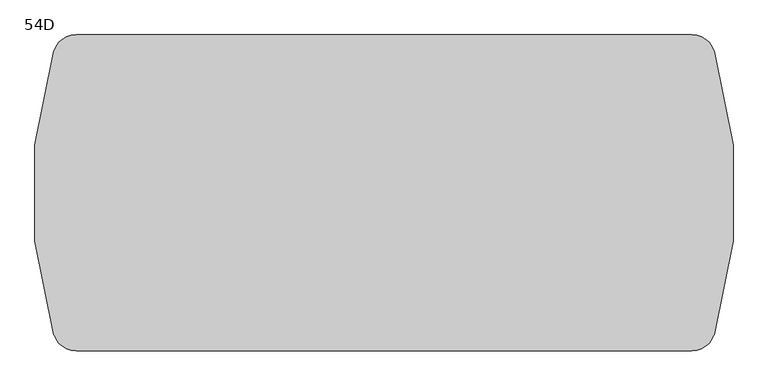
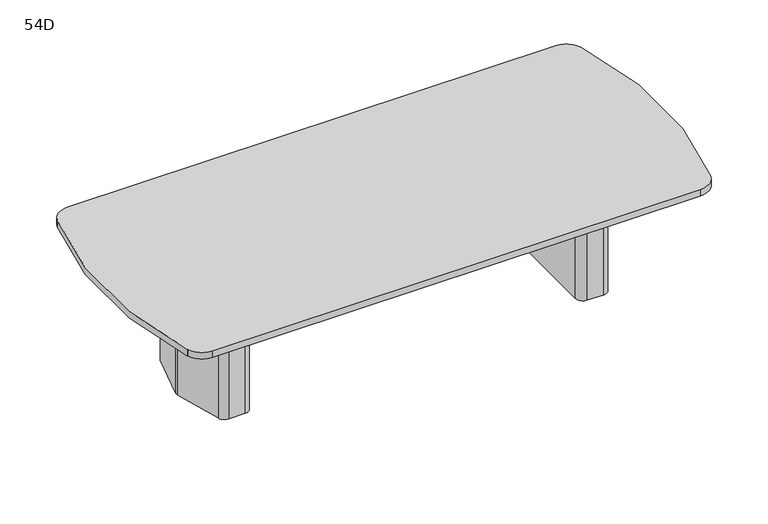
"""IFC4 building model written with IfcOpenShell, lengths in millimetres: furniture geometry, Coalesse_AM_Table_Conference_ETable2_SoftRadiused_10ft_TwoBase : 54D."""

from ifc_helpers import new_model, si_unit, frame, origin, place, context, project, spatial, polyline, circle_curve, outline, extrude, source, transform, mapped, element, save
from ifc_brep_helpers import plane_surface, cylinder_surface, revolved_surface, advanced_brep


def furniture_54d_7802b859(model_context):
    return source(origin(), model_context, "Body", "SolidModel", [
        advanced_brep(
        [(1065.424548, 274.2093613, 698.5), (1025.5579246, 304.8, 698.5), (936.625, 304.8, 698.5), (895.35, 263.525, 698.5), (895.35, -263.525, 698.5), (936.625, -304.8, 698.5), (1025.5579246, -304.8, 698.5), (1065.424548, -274.2093613, 698.5), (1136.0503901, -10.6333708, 698.5), (1136.0503901, 10.6333708, 698.5), (933.45, -206.375, 698.5), (933.45, 206.375, 698.5), (958.85, 231.775, 698.5), (1017.8608422, 231.775, 698.5), (1042.395338, 212.9490792, 698.5), (1081.0875, 68.54974, 698.5), (1081.0875, -68.54974, 698.5), (1042.395338, -212.9490792, 698.5), (1017.8608422, -231.775, 698.5), (958.85, -231.775, 698.5), (1065.424548, 274.2093613, 3.175), (1136.0503901, 10.6333708, 3.175), (1136.0503901, -10.6333708, 3.175), (1065.424548, -274.2093613, 3.175), (1025.5579246, -304.8, 3.175), (936.625, -304.8, 3.175), (895.35, -263.525, 3.175), (895.35, 263.525, 3.175), (936.625, 304.8, 3.175), (1025.5579246, 304.8, 3.175), (1054.6625859, 216.2361187, 3.175), (1017.8608422, 244.475, 3.175), (958.85, 244.475, 3.175), (920.75, 206.375, 3.175), (920.75, -206.375, 3.175), (958.85, -244.475, 3.175), (1017.8608422, -244.475, 3.175), (1054.6625859, -216.2361187, 3.175), (1093.7875, -70.2217466, 3.175), (1093.7875, 70.2217466, 3.175), (958.85, -231.775, 3.175), (933.45, -206.375, 3.175), (1017.8608422, -231.775, 3.175), (1042.395338, -212.9490792, 3.175), (1081.0875, -68.54974, 3.175), (1081.0875, 68.54974, 3.175), (1042.395338, 212.9490792, 3.175), (1017.8608422, 231.775, 3.175), (958.85, 231.775, 3.175), (933.45, 206.375, 3.175), (1054.6625859, 216.2361187, 0.0), (1093.7875, 70.2217466, 0.0), (1093.7875, -70.2217466, 0.0), (1054.6625859, -216.2361187, 0.0), (1017.8608422, -244.475, 0.0), (958.85, -244.475, 0.0), (920.75, -206.375, 0.0), (920.75, 206.375, 0.0), (958.85, 244.475, 0.0), (1017.8608422, 244.475, 0.0)],
        [
            (0, 1, circle_curve(frame((1025.5579246, 263.5270004, 698.5), z_axis=(0.0, 0.0, 1.0), x_axis=(-1.0, 0.0, 0.0)), 41.2729996)),
            (1, 2),
            (2, 3, circle_curve(frame((936.625, 263.525, 698.5), z_axis=(0.0, 0.0, 1.0), x_axis=(-1.0, 0.0, 0.0)), 41.275)),
            (3, 4),
            (4, 5, circle_curve(frame((936.625, -263.525, 698.5), z_axis=(0.0, 0.0, 1.0), x_axis=(-1.0, 0.0, 0.0)), 41.275)),
            (5, 6),
            (6, 7, circle_curve(frame((1025.5579246, -263.5270004, 698.5), z_axis=(0.0, 0.0, 1.0), x_axis=(-1.0, 0.0, 0.0)), 41.2729996)),
            (7, 8),
            (8, 9, circle_curve(frame((1096.3665979, 0.0, 698.5), z_axis=(0.0, 0.0, 1.0), x_axis=(-1.0, 0.0, 0.0)), 41.0837187)),
            (9, 0),
            (10, 11),
            (11, 12, circle_curve(frame((958.85, 206.375, 698.5), z_axis=(0.0, 0.0, -1.0), x_axis=(-1.0, 0.0, 0.0)), 25.4)),
            (12, 13),
            (13, 14, circle_curve(frame((1017.8608422, 206.375, 698.5), z_axis=(0.0, 0.0, -1.0), x_axis=(-1.0, 0.0, 0.0)), 25.4)),
            (14, 15),
            (15, 16),
            (16, 17),
            (17, 18, circle_curve(frame((1017.8608422, -206.375, 698.5), z_axis=(0.0, 0.0, -1.0), x_axis=(-1.0, 0.0, 0.0)), 25.4)),
            (18, 19),
            (19, 10, circle_curve(frame((958.85, -206.375, 698.5), z_axis=(0.0, 0.0, -1.0), x_axis=(-1.0, 0.0, 0.0)), 25.4)),
            (20, 21),
            (21, 22, circle_curve(frame((1096.3665979, 0.0, 3.175), z_axis=(0.0, 0.0, -1.0), x_axis=(-1.0, 0.0, 0.0)), 41.0837187)),
            (22, 23),
            (23, 24, circle_curve(frame((1025.5579246, -263.5270004, 3.175), z_axis=(0.0, 0.0, -1.0), x_axis=(-1.0, 0.0, 0.0)), 41.2729996)),
            (24, 25),
            (25, 26, circle_curve(frame((936.625, -263.525, 3.175), z_axis=(0.0, 0.0, -1.0), x_axis=(-1.0, 0.0, 0.0)), 41.275)),
            (26, 27),
            (27, 28, circle_curve(frame((936.625, 263.525, 3.175), z_axis=(0.0, 0.0, -1.0), x_axis=(-1.0, 0.0, 0.0)), 41.275)),
            (28, 29),
            (29, 20, circle_curve(frame((1025.5579246, 263.5270004, 3.175), z_axis=(0.0, 0.0, -1.0), x_axis=(-1.0, 0.0, 0.0)), 41.2729996)),
            (30, 31, circle_curve(frame((1017.8608422, 206.375, 3.175), z_axis=(0.0, 0.0, 1.0), x_axis=(-1.0, 0.0, 0.0)), 38.1)),
            (31, 32),
            (32, 33, circle_curve(frame((958.85, 206.375, 3.175), z_axis=(0.0, 0.0, 1.0), x_axis=(-1.0, 0.0, 0.0)), 38.1)),
            (33, 34),
            (34, 35, circle_curve(frame((958.85, -206.375, 3.175), z_axis=(0.0, 0.0, 1.0), x_axis=(-1.0, 0.0, 0.0)), 38.1)),
            (35, 36),
            (36, 37, circle_curve(frame((1017.8608422, -206.375, 3.175), z_axis=(0.0, 0.0, 1.0), x_axis=(-1.0, 0.0, 0.0)), 38.1)),
            (37, 38),
            (38, 39),
            (39, 30),
            (9, 21),
            (20, 0),
            (8, 22),
            (7, 23),
            (6, 24),
            (5, 25),
            (4, 26),
            (3, 27),
            (2, 28),
            (1, 29),
            (19, 40),
            (40, 41, circle_curve(frame((958.85, -206.375, 3.175), z_axis=(0.0, 0.0, -1.0), x_axis=(-1.0, 0.0, 0.0)), 25.4)),
            (41, 10),
            (18, 42),
            (42, 40),
            (17, 43),
            (43, 42, circle_curve(frame((1017.8608422, -206.375, 3.175), z_axis=(0.0, 0.0, -1.0), x_axis=(-1.0, 0.0, 0.0)), 25.4)),
            (16, 44),
            (44, 43),
            (15, 45),
            (45, 44),
            (14, 46),
            (46, 45),
            (13, 47),
            (47, 46, circle_curve(frame((1017.8608422, 206.375, 3.175), z_axis=(0.0, 0.0, -1.0), x_axis=(-1.0, 0.0, 0.0)), 25.4)),
            (12, 48),
            (48, 47),
            (11, 49),
            (49, 48, circle_curve(frame((958.85, 206.375, 3.175), z_axis=(0.0, 0.0, -1.0), x_axis=(-1.0, 0.0, 0.0)), 25.4)),
            (41, 49),
            (50, 51),
            (51, 52),
            (52, 53),
            (53, 54, circle_curve(frame((1017.8608422, -206.375, 0.0), z_axis=(0.0, 0.0, -1.0), x_axis=(-1.0, 0.0, 0.0)), 38.1)),
            (54, 55),
            (55, 56, circle_curve(frame((958.85, -206.375, 0.0), z_axis=(0.0, 0.0, -1.0), x_axis=(-1.0, 0.0, 0.0)), 38.1)),
            (56, 57),
            (57, 58, circle_curve(frame((958.85, 206.375, 0.0), z_axis=(0.0, 0.0, -1.0), x_axis=(-1.0, 0.0, 0.0)), 38.1)),
            (58, 59),
            (59, 50, circle_curve(frame((1017.8608422, 206.375, 0.0), z_axis=(0.0, 0.0, -1.0), x_axis=(-1.0, 0.0, 0.0)), 38.1)),
            (50, 30),
            (39, 51),
            (38, 52),
            (37, 53),
            (36, 54),
            (35, 55),
            (34, 56),
            (33, 57),
            (32, 58),
            (31, 59),
        ],
        [
            plane_surface(frame((1136.0374275, 10.6817473, 698.5), z_axis=(0.0, 0.0, 1.0000000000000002), x_axis=(0.25882201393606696, -0.9659250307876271, 0.0))),
            plane_surface(frame((1136.0374275, 10.6817473, 3.175), z_axis=(0.0, 0.0, -1.0000000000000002), x_axis=(-0.25882201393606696, 0.9659250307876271, 0.0))),
            plane_surface(frame((1065.424548, 274.2093613, 698.5), z_axis=(0.9659250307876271, 0.25882201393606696, 0.0), x_axis=(0.0, 0.0, -1.0))),
            cylinder_surface(frame((1096.3665979, 0.0, 3.175), z_axis=(0.0, 0.0, 1.0), x_axis=(-1.0, 0.0, 0.0)), 41.0837187),
            plane_surface(frame((1136.0503901, -10.6333708, 698.5), z_axis=(0.9659250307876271, -0.2588220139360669, 0.0), x_axis=(0.0, 0.0, -1.0))),
            cylinder_surface(frame((1025.5579246, -263.5270004, 3.175), z_axis=(0.0, 0.0, 1.0), x_axis=(-1.0, 0.0, 0.0)), 41.2729996),
            plane_surface(frame((1025.5579246, -304.8, 698.5), z_axis=(0.0, -1.0, 0.0), x_axis=(0.0, 0.0, -1.0))),
            cylinder_surface(frame((936.625, -263.525, 3.175), z_axis=(0.0, 0.0, 1.0), x_axis=(-1.0, 0.0, 0.0)), 41.275),
            plane_surface(frame((895.35, -263.525, 698.5), z_axis=(-1.0, 0.0, 0.0), x_axis=(0.0, 0.0, -1.0))),
            cylinder_surface(frame((936.625, 263.525, 3.175), z_axis=(0.0, 0.0, 1.0), x_axis=(-1.0, 0.0, 0.0)), 41.275),
            plane_surface(frame((936.625, 304.8, 698.5), z_axis=(0.0, 1.0, 0.0), x_axis=(0.0, 0.0, -1.0))),
            cylinder_surface(frame((1025.5579246, 263.5270004, 3.175), z_axis=(0.0, 0.0, 1.0), x_axis=(-1.0, 0.0, 0.0)), 41.2729996),
            revolved_surface(polyline([(933.45, -206.375, 3.175), (933.45, -206.375, 698.5)]), (958.85, -206.375, 0.0), (0.0, 0.0, -1.0)),
            plane_surface(frame((958.85, -231.775, 698.5), z_axis=(0.0, 1.0, 0.0), x_axis=(0.0, 0.0, -1.0))),
            revolved_surface(polyline([(992.4608422, -206.375, 3.175), (992.4608422, -206.375, 698.5)]), (1017.8608422, -206.375, 0.0), (0.0, 0.0, -1.0)),
            plane_surface(frame((1042.395338, -212.9490792, 698.5), z_axis=(-0.9659250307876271, 0.2588220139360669, 0.0), x_axis=(0.0, 0.0, -1.0))),
            plane_surface(frame((1081.0875, -68.54974, 698.5), z_axis=(-1.0, 0.0, 0.0), x_axis=(0.0, 0.0, -1.0))),
            plane_surface(frame((1081.0875, 68.54974, 698.5), z_axis=(-0.9659250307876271, -0.25882201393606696, 0.0), x_axis=(0.0, 0.0, -1.0))),
            revolved_surface(polyline([(992.4608422, 206.375, 3.175), (992.4608422, 206.375, 698.5)]), (1017.8608422, 206.375, 0.0), (0.0, 0.0, -1.0)),
            plane_surface(frame((1017.8608422, 231.775, 698.5), z_axis=(0.0, -1.0, 0.0), x_axis=(0.0, 0.0, -1.0))),
            revolved_surface(polyline([(933.45, 206.375, 3.175), (933.45, 206.375, 698.5)]), (958.85, 206.375, 0.0), (0.0, 0.0, -1.0)),
            plane_surface(frame((933.45, 206.375, 698.5), z_axis=(1.0, 0.0, 0.0), x_axis=(0.0, 0.0, -1.0))),
            plane_surface(frame((1093.3547479, 71.8367796, 3.175), z_axis=(0.0, 0.0, 1.0), x_axis=(0.25882201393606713, -0.965925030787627, 0.0))),
            plane_surface(frame((1093.3547479, 71.8367796, 0.0), z_axis=(0.0, 0.0, -1.0), x_axis=(-0.25882201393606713, 0.965925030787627, 0.0))),
            plane_surface(frame((1054.6625859, 216.2361187, 3.175), z_axis=(0.965925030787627, 0.25882201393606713, 0.0), x_axis=(0.0, 0.0, -1.0))),
            plane_surface(frame((1093.7875, 70.2217466, 3.175), z_axis=(1.0, 0.0, 0.0), x_axis=(0.0, 0.0, -1.0))),
            plane_surface(frame((1093.7875, -70.2217466, 3.175), z_axis=(0.9659250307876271, -0.2588220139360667, 0.0), x_axis=(0.0, 0.0, -1.0))),
            cylinder_surface(frame((1017.8608422, -206.375, 0.0), z_axis=(0.0, 0.0, 1.0), x_axis=(-1.0, 0.0, 0.0)), 38.1),
            plane_surface(frame((1017.8608422, -244.475, 3.175), z_axis=(0.0, -1.0, 0.0), x_axis=(0.0, 0.0, -1.0))),
            cylinder_surface(frame((958.85, -206.375, 0.0), z_axis=(0.0, 0.0, 1.0), x_axis=(-1.0, 0.0, 0.0)), 38.1),
            plane_surface(frame((920.75, -206.375, 3.175), z_axis=(-1.0, 0.0, 0.0), x_axis=(0.0, 0.0, -1.0))),
            cylinder_surface(frame((958.85, 206.375, 0.0), z_axis=(0.0, 0.0, 1.0), x_axis=(-1.0, 0.0, 0.0)), 38.1),
            plane_surface(frame((958.85, 244.475, 3.175), z_axis=(0.0, 1.0, 0.0), x_axis=(0.0, 0.0, -1.0))),
            cylinder_surface(frame((1017.8608422, 206.375, 0.0), z_axis=(0.0, 0.0, 1.0), x_axis=(-1.0, 0.0, 0.0)), 38.1),
        ],
        [
            (0, [[1, 2, 3, 4, 5, 6, 7, 8, 9, 10], [11, 12, 13, 14, 15, 16, 17, 18, 19, 20]]),
            (1, [[21, 22, 23, 24, 25, 26, 27, 28, 29, 30], [31, 32, 33, 34, 35, 36, 37, 38, 39, 40]]),
            (2, [[41, -21, 42, -10]]),
            (3, [[43, -22, -41, -9]]),
            (4, [[44, -23, -43, -8]]),
            (5, [[45, -24, -44, -7]]),
            (6, [[46, -25, -45, -6]]),
            (7, [[47, -26, -46, -5]]),
            (8, [[48, -27, -47, -4]]),
            (9, [[49, -28, -48, -3]]),
            (10, [[50, -29, -49, -2]]),
            (11, [[-42, -30, -50, -1]]),
            (12, [[51, 52, 53, -20]]),
            (13, [[54, 55, -51, -19]]),
            (14, [[56, 57, -54, -18]]),
            (15, [[58, 59, -56, -17]]),
            (16, [[60, 61, -58, -16]]),
            (17, [[62, 63, -60, -15]]),
            (18, [[64, 65, -62, -14]]),
            (19, [[66, 67, -64, -13]]),
            (20, [[68, 69, -66, -12]]),
            (21, [[-53, 70, -68, -11]]),
            (22, [[-55, -57, -59, -61, -63, -65, -67, -69, -70, -52]]),
            (23, [[71, 72, 73, 74, 75, 76, 77, 78, 79, 80]]),
            (24, [[81, -40, 82, -71]]),
            (25, [[-82, -39, 83, -72]]),
            (26, [[-83, -38, 84, -73]]),
            (27, [[-84, -37, 85, -74]]),
            (28, [[-85, -36, 86, -75]]),
            (29, [[-86, -35, 87, -76]]),
            (30, [[-87, -34, 88, -77]]),
            (31, [[-88, -33, 89, -78]]),
            (32, [[-89, -32, 90, -79]]),
            (33, [[-90, -31, -81, -80]]),
        ],
    ),
        advanced_brep(
        [(-1065.424548, 274.2093613, 698.5), (-1136.0503901, 10.6333708, 698.5), (-1136.0503901, -10.6333708, 698.5), (-1065.424548, -274.2093613, 698.5), (-1025.5579246, -304.8, 698.5), (-936.625, -304.8, 698.5), (-895.35, -263.525, 698.5), (-895.35, 263.525, 698.5), (-936.625, 304.8, 698.5), (-1025.5579246, 304.8, 698.5), (-933.45, -206.375, 698.5), (-958.85, -231.775, 698.5), (-1017.8608422, -231.775, 698.5), (-1042.395338, -212.9490792, 698.5), (-1081.0875, -68.54974, 698.5), (-1081.0875, 68.54974, 698.5), (-1042.395338, 212.9490792, 698.5), (-1017.8608422, 231.775, 698.5), (-958.85, 231.775, 698.5), (-933.45, 206.375, 698.5), (-1065.424548, 274.2093613, 3.175), (-1025.5579246, 304.8, 3.175), (-936.625, 304.8, 3.175), (-895.35, 263.525, 3.175), (-895.35, -263.525, 3.175), (-936.625, -304.8, 3.175), (-1025.5579246, -304.8, 3.175), (-1065.424548, -274.2093613, 3.175), (-1136.0503901, -10.6333708, 3.175), (-1136.0503901, 10.6333708, 3.175), (-1054.6625859, 216.2361187, 3.175), (-1093.7875, 70.2217466, 3.175), (-1093.7875, -70.2217466, 3.175), (-1054.6625859, -216.2361187, 3.175), (-1017.8608422, -244.475, 3.175), (-958.85, -244.475, 3.175), (-920.75, -206.375, 3.175), (-920.75, 206.375, 3.175), (-958.85, 244.475, 3.175), (-1017.8608422, 244.475, 3.175), (-933.45, -206.375, 3.175), (-958.85, -231.775, 3.175), (-1017.8608422, -231.775, 3.175), (-1042.395338, -212.9490792, 3.175), (-1081.0875, -68.54974, 3.175), (-1081.0875, 68.54974, 3.175), (-1042.395338, 212.9490792, 3.175), (-1017.8608422, 231.775, 3.175), (-958.85, 231.775, 3.175), (-933.45, 206.375, 3.175), (-1054.6625859, 216.2361187, 0.0), (-1017.8608422, 244.475, 0.0), (-958.85, 244.475, 0.0), (-920.75, 206.375, 0.0), (-920.75, -206.375, 0.0), (-958.85, -244.475, 0.0), (-1017.8608422, -244.475, 0.0), (-1054.6625859, -216.2361187, 0.0), (-1093.7875, -70.2217466, 0.0), (-1093.7875, 70.2217466, 0.0)],
        [
            (0, 1),
            (1, 2, circle_curve(frame((-1096.3665979, 0.0, 698.5), z_axis=(0.0, 0.0, 1.0), x_axis=(1.0, 0.0, 0.0)), 41.0837187)),
            (2, 3),
            (3, 4, circle_curve(frame((-1025.5579246, -263.5270004, 698.5), z_axis=(0.0, 0.0, 1.0), x_axis=(1.0, 0.0, 0.0)), 41.2729996)),
            (4, 5),
            (5, 6, circle_curve(frame((-936.625, -263.525, 698.5), z_axis=(0.0, 0.0, 1.0), x_axis=(1.0, 0.0, 0.0)), 41.275)),
            (6, 7),
            (7, 8, circle_curve(frame((-936.625, 263.525, 698.5), z_axis=(0.0, 0.0, 1.0), x_axis=(1.0, 0.0, 0.0)), 41.275)),
            (8, 9),
            (9, 0, circle_curve(frame((-1025.5579246, 263.5270004, 698.5), z_axis=(0.0, 0.0, 1.0), x_axis=(1.0, 0.0, 0.0)), 41.2729996)),
            (10, 11, circle_curve(frame((-958.85, -206.375, 698.5), z_axis=(0.0, 0.0, -1.0), x_axis=(1.0, 0.0, 0.0)), 25.4)),
            (11, 12),
            (12, 13, circle_curve(frame((-1017.8608422, -206.375, 698.5), z_axis=(0.0, 0.0, -1.0), x_axis=(1.0, 0.0, 0.0)), 25.4)),
            (13, 14),
            (14, 15),
            (15, 16),
            (16, 17, circle_curve(frame((-1017.8608422, 206.375, 698.5), z_axis=(0.0, 0.0, -1.0), x_axis=(1.0, 0.0, 0.0)), 25.4)),
            (17, 18),
            (18, 19, circle_curve(frame((-958.85, 206.375, 698.5), z_axis=(0.0, 0.0, -1.0), x_axis=(1.0, 0.0, 0.0)), 25.4)),
            (19, 10),
            (20, 21, circle_curve(frame((-1025.5579246, 263.5270004, 3.175), z_axis=(0.0, 0.0, -1.0), x_axis=(1.0, 0.0, 0.0)), 41.2729996)),
            (21, 22),
            (22, 23, circle_curve(frame((-936.625, 263.525, 3.175), z_axis=(0.0, 0.0, -1.0), x_axis=(1.0, 0.0, 0.0)), 41.275)),
            (23, 24),
            (24, 25, circle_curve(frame((-936.625, -263.525, 3.175), z_axis=(0.0, 0.0, -1.0), x_axis=(1.0, 0.0, 0.0)), 41.275)),
            (25, 26),
            (26, 27, circle_curve(frame((-1025.5579246, -263.5270004, 3.175), z_axis=(0.0, 0.0, -1.0), x_axis=(1.0, 0.0, 0.0)), 41.2729996)),
            (27, 28),
            (28, 29, circle_curve(frame((-1096.3665979, 0.0, 3.175), z_axis=(0.0, 0.0, -1.0), x_axis=(1.0, 0.0, 0.0)), 41.0837187)),
            (29, 20),
            (30, 31),
            (31, 32),
            (32, 33),
            (33, 34, circle_curve(frame((-1017.8608422, -206.375, 3.175), z_axis=(0.0, 0.0, 1.0), x_axis=(1.0, 0.0, 0.0)), 38.1)),
            (34, 35),
            (35, 36, circle_curve(frame((-958.85, -206.375, 3.175), z_axis=(0.0, 0.0, 1.0), x_axis=(1.0, 0.0, 0.0)), 38.1)),
            (36, 37),
            (37, 38, circle_curve(frame((-958.85, 206.375, 3.175), z_axis=(0.0, 0.0, 1.0), x_axis=(1.0, 0.0, 0.0)), 38.1)),
            (38, 39),
            (39, 30, circle_curve(frame((-1017.8608422, 206.375, 3.175), z_axis=(0.0, 0.0, 1.0), x_axis=(1.0, 0.0, 0.0)), 38.1)),
            (0, 20),
            (29, 1),
            (28, 2),
            (27, 3),
            (26, 4),
            (25, 5),
            (24, 6),
            (23, 7),
            (22, 8),
            (21, 9),
            (10, 40),
            (40, 41, circle_curve(frame((-958.85, -206.375, 3.175), z_axis=(0.0, 0.0, -1.0), x_axis=(1.0, 0.0, 0.0)), 25.4)),
            (41, 11),
            (41, 42),
            (42, 12),
            (42, 43, circle_curve(frame((-1017.8608422, -206.375, 3.175), z_axis=(0.0, 0.0, -1.0), x_axis=(1.0, 0.0, 0.0)), 25.4)),
            (43, 13),
            (43, 44),
            (44, 14),
            (44, 45),
            (45, 15),
            (45, 46),
            (46, 16),
            (46, 47, circle_curve(frame((-1017.8608422, 206.375, 3.175), z_axis=(0.0, 0.0, -1.0), x_axis=(1.0, 0.0, 0.0)), 25.4)),
            (47, 17),
            (47, 48),
            (48, 18),
            (48, 49, circle_curve(frame((-958.85, 206.375, 3.175), z_axis=(0.0, 0.0, -1.0), x_axis=(1.0, 0.0, 0.0)), 25.4)),
            (49, 19),
            (49, 40),
            (50, 51, circle_curve(frame((-1017.8608422, 206.375, 0.0), z_axis=(0.0, 0.0, -1.0), x_axis=(1.0, 0.0, 0.0)), 38.1)),
            (51, 52),
            (52, 53, circle_curve(frame((-958.85, 206.375, 0.0), z_axis=(0.0, 0.0, -1.0), x_axis=(1.0, 0.0, 0.0)), 38.1)),
            (53, 54),
            (54, 55, circle_curve(frame((-958.85, -206.375, 0.0), z_axis=(0.0, 0.0, -1.0), x_axis=(1.0, 0.0, 0.0)), 38.1)),
            (55, 56),
            (56, 57, circle_curve(frame((-1017.8608422, -206.375, 0.0), z_axis=(0.0, 0.0, -1.0), x_axis=(1.0, 0.0, 0.0)), 38.1)),
            (57, 58),
            (58, 59),
            (59, 50),
            (59, 31),
            (30, 50),
            (58, 32),
            (57, 33),
            (56, 34),
            (55, 35),
            (54, 36),
            (53, 37),
            (52, 38),
            (51, 39),
        ],
        [
            plane_surface(frame((-1136.0374275, 10.6817473, 698.5), z_axis=(0.0, 0.0, 1.0000000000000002), x_axis=(-0.25882201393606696, -0.9659250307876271, 0.0))),
            plane_surface(frame((-1136.0374275, 10.6817473, 3.175), z_axis=(0.0, 0.0, -1.0000000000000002), x_axis=(0.25882201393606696, 0.9659250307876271, 0.0))),
            plane_surface(frame((-1065.424548, 274.2093613, 698.5), z_axis=(-0.9659250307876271, 0.25882201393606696, 0.0), x_axis=(0.0, 0.0, -1.0))),
            cylinder_surface(frame((-1096.3665979, 0.0, 3.175), z_axis=(0.0, 0.0, 1.0), x_axis=(1.0, 0.0, 0.0)), 41.0837187),
            plane_surface(frame((-1136.0503901, -10.6333708, 698.5), z_axis=(-0.9659250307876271, -0.2588220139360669, 0.0), x_axis=(0.0, 0.0, -1.0))),
            cylinder_surface(frame((-1025.5579246, -263.5270004, 3.175), z_axis=(0.0, 0.0, 1.0), x_axis=(1.0, 0.0, 0.0)), 41.2729996),
            plane_surface(frame((-1025.5579246, -304.8, 698.5), z_axis=(0.0, -1.0, 0.0), x_axis=(0.0, 0.0, -1.0))),
            cylinder_surface(frame((-936.625, -263.525, 3.175), z_axis=(0.0, 0.0, 1.0), x_axis=(1.0, 0.0, 0.0)), 41.275),
            plane_surface(frame((-895.35, -263.525, 698.5), z_axis=(1.0, 0.0, 0.0), x_axis=(0.0, 0.0, -1.0))),
            cylinder_surface(frame((-936.625, 263.525, 3.175), z_axis=(0.0, 0.0, 1.0), x_axis=(1.0, 0.0, 0.0)), 41.275),
            plane_surface(frame((-936.625, 304.8, 698.5), z_axis=(0.0, 1.0, 0.0), x_axis=(0.0, 0.0, -1.0))),
            cylinder_surface(frame((-1025.5579246, 263.5270004, 3.175), z_axis=(0.0, 0.0, 1.0), x_axis=(1.0, 0.0, 0.0)), 41.2729996),
            revolved_surface(polyline([(-933.45, -206.375, 3.175), (-933.45, -206.375, 698.5)]), (-958.85, -206.375, 0.0), (0.0, 0.0, -1.0)),
            plane_surface(frame((-958.85, -231.775, 698.5), z_axis=(0.0, 1.0, 0.0), x_axis=(0.0, 0.0, -1.0))),
            revolved_surface(polyline([(-992.4608422, -206.375, 3.175), (-992.4608422, -206.375, 698.5)]), (-1017.8608422, -206.375, 0.0), (0.0, 0.0, -1.0)),
            plane_surface(frame((-1042.395338, -212.9490792, 698.5), z_axis=(0.9659250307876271, 0.2588220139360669, 0.0), x_axis=(0.0, 0.0, -1.0))),
            plane_surface(frame((-1081.0875, -68.54974, 698.5), z_axis=(1.0, 0.0, 0.0), x_axis=(0.0, 0.0, -1.0))),
            plane_surface(frame((-1081.0875, 68.54974, 698.5), z_axis=(0.9659250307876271, -0.25882201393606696, 0.0), x_axis=(0.0, 0.0, -1.0))),
            revolved_surface(polyline([(-992.4608422, 206.375, 3.175), (-992.4608422, 206.375, 698.5)]), (-1017.8608422, 206.375, 0.0), (0.0, 0.0, -1.0)),
            plane_surface(frame((-1017.8608422, 231.775, 698.5), z_axis=(0.0, -1.0, 0.0), x_axis=(0.0, 0.0, -1.0))),
            revolved_surface(polyline([(-933.45, 206.375, 3.175), (-933.45, 206.375, 698.5)]), (-958.85, 206.375, 0.0), (0.0, 0.0, -1.0)),
            plane_surface(frame((-933.45, 206.375, 698.5), z_axis=(-1.0, 0.0, 0.0), x_axis=(0.0, 0.0, -1.0))),
            plane_surface(frame((-1093.3547479, 71.8367796, 3.175), z_axis=(0.0, 0.0, 1.0), x_axis=(-0.25882201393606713, -0.965925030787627, 0.0))),
            plane_surface(frame((-1093.3547479, 71.8367796, 0.0), z_axis=(0.0, 0.0, -1.0), x_axis=(0.25882201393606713, 0.965925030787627, 0.0))),
            plane_surface(frame((-1054.6625859, 216.2361187, 3.175), z_axis=(-0.965925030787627, 0.25882201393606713, 0.0), x_axis=(0.0, 0.0, -1.0))),
            plane_surface(frame((-1093.7875, 70.2217466, 3.175), z_axis=(-1.0, 0.0, 0.0), x_axis=(0.0, 0.0, -1.0))),
            plane_surface(frame((-1093.7875, -70.2217466, 3.175), z_axis=(-0.9659250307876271, -0.2588220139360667, 0.0), x_axis=(0.0, 0.0, -1.0))),
            cylinder_surface(frame((-1017.8608422, -206.375, 0.0), z_axis=(0.0, 0.0, 1.0), x_axis=(1.0, 0.0, 0.0)), 38.1),
            plane_surface(frame((-1017.8608422, -244.475, 3.175), z_axis=(0.0, -1.0, 0.0), x_axis=(0.0, 0.0, -1.0))),
            cylinder_surface(frame((-958.85, -206.375, 0.0), z_axis=(0.0, 0.0, 1.0), x_axis=(1.0, 0.0, 0.0)), 38.1),
            plane_surface(frame((-920.75, -206.375, 3.175), z_axis=(1.0, 0.0, 0.0), x_axis=(0.0, 0.0, -1.0))),
            cylinder_surface(frame((-958.85, 206.375, 0.0), z_axis=(0.0, 0.0, 1.0), x_axis=(1.0, 0.0, 0.0)), 38.1),
            plane_surface(frame((-958.85, 244.475, 3.175), z_axis=(0.0, 1.0, 0.0), x_axis=(0.0, 0.0, -1.0))),
            cylinder_surface(frame((-1017.8608422, 206.375, 0.0), z_axis=(0.0, 0.0, 1.0), x_axis=(1.0, 0.0, 0.0)), 38.1),
        ],
        [
            (0, [[1, 2, 3, 4, 5, 6, 7, 8, 9, 10], [11, 12, 13, 14, 15, 16, 17, 18, 19, 20]]),
            (1, [[21, 22, 23, 24, 25, 26, 27, 28, 29, 30], [31, 32, 33, 34, 35, 36, 37, 38, 39, 40]]),
            (2, [[-1, 41, -30, 42]]),
            (3, [[-2, -42, -29, 43]]),
            (4, [[-3, -43, -28, 44]]),
            (5, [[-4, -44, -27, 45]]),
            (6, [[-5, -45, -26, 46]]),
            (7, [[-6, -46, -25, 47]]),
            (8, [[-7, -47, -24, 48]]),
            (9, [[-8, -48, -23, 49]]),
            (10, [[-9, -49, -22, 50]]),
            (11, [[-10, -50, -21, -41]]),
            (12, [[-11, 51, 52, 53]]),
            (13, [[-12, -53, 54, 55]]),
            (14, [[-13, -55, 56, 57]]),
            (15, [[-14, -57, 58, 59]]),
            (16, [[-15, -59, 60, 61]]),
            (17, [[-16, -61, 62, 63]]),
            (18, [[-17, -63, 64, 65]]),
            (19, [[-18, -65, 66, 67]]),
            (20, [[-19, -67, 68, 69]]),
            (21, [[-20, -69, 70, -51]]),
            (22, [[-52, -70, -68, -66, -64, -62, -60, -58, -56, -54]]),
            (23, [[71, 72, 73, 74, 75, 76, 77, 78, 79, 80]]),
            (24, [[-80, 81, -31, 82]]),
            (25, [[-79, 83, -32, -81]]),
            (26, [[-78, 84, -33, -83]]),
            (27, [[-77, 85, -34, -84]]),
            (28, [[-76, 86, -35, -85]]),
            (29, [[-75, 87, -36, -86]]),
            (30, [[-74, 88, -37, -87]]),
            (31, [[-73, 89, -38, -88]]),
            (32, [[-72, 90, -39, -89]]),
            (33, [[-71, -82, -40, -90]]),
        ],
    ),
        extrude(outline(polyline([(96.8375, 698.5), (103.1875, 698.5), (103.1875, 476.25), (-103.1875, 476.25), (-103.1875, 698.5), (-96.8375, 698.5), (-96.8375, 482.6), (96.8375, 482.6), (96.8375, 698.5)])), frame((-895.35, 0.0, 0.0), z_axis=(1.0, 0.0, 0.0), x_axis=(0.0, 1.0, 0.0)), (0.0, 0.0, 1.0), 1790.7),
        advanced_brep(
        [(-1335.2420702, 685.8, 736.6), (-1431.0315996, 618.0662966, 736.6), (-1431.7818993, 615.9441026, 736.6), (-1431.7818993, -615.9441026, 736.6), (-1431.0315996, -618.0662966, 736.6), (-1335.2417376, -685.8, 736.6), (1335.2420702, -685.8, 736.6), (1431.0315996, -618.0662966, 736.6), (1431.7818993, -615.9441026, 736.6), (1431.7818993, 615.9441026, 736.6), (1431.0315996, 618.0662966, 736.6), (1335.2420702, 685.8, 736.6), (-1335.2420702, 685.8, 698.5), (1335.2420702, 685.8, 698.5), (1431.0315996, 618.0662966, 698.5), (1431.7818993, 615.9441026, 698.5), (1431.7818993, -615.9441026, 698.5), (1431.0315996, -618.0662966, 698.5), (1335.2420702, -685.8, 698.5), (-1335.2417376, -685.8, 698.5), (-1431.0312448, -618.0663594, 698.5), (-1431.7818993, -615.9441026, 698.5), (-1431.7818993, 615.9441026, 698.5), (-1431.0315996, 618.0662966, 698.5)],
        [
            (0, 1, circle_curve(frame((-1335.2420702, 584.2, 736.6), z_axis=(0.0, 0.0, 1.0), x_axis=(1.0, 0.0, 0.0)), 101.6)),
            (1, 2),
            (2, 3, circle_curve(frame((570.3458071, 0.0, 736.6), z_axis=(0.0, 0.0, 1.0), x_axis=(1.0, 0.0, 0.0)), 2094.7320807)),
            (3, 4),
            (4, 5, circle_curve(frame((-1335.2417376, -584.2, 736.6), z_axis=(0.0, 0.0, 1.0), x_axis=(1.0, 0.0, 0.0)), 101.6)),
            (5, 6),
            (6, 7, circle_curve(frame((1335.2420702, -584.2, 736.6), z_axis=(0.0, 0.0, 1.0), x_axis=(1.0, 0.0, 0.0)), 101.6)),
            (7, 8),
            (8, 9, circle_curve(frame((-570.3458071, 0.0, 736.6), z_axis=(0.0, 0.0, 1.0), x_axis=(1.0, 0.0, 0.0)), 2094.7320807)),
            (9, 10),
            (10, 11, circle_curve(frame((1335.2420702, 584.2, 736.6), z_axis=(0.0, 0.0, 1.0), x_axis=(1.0, 0.0, 0.0)), 101.6)),
            (11, 0),
            (12, 13),
            (13, 14, circle_curve(frame((1335.2420702, 584.2, 698.5), z_axis=(0.0, 0.0, -1.0), x_axis=(1.0, 0.0, 0.0)), 101.6)),
            (14, 15),
            (15, 16, circle_curve(frame((-570.3458071, 0.0, 698.5), z_axis=(0.0, 0.0, -1.0), x_axis=(1.0, 0.0, 0.0)), 2094.7320807)),
            (16, 17),
            (17, 18, circle_curve(frame((1335.2420702, -584.2, 698.5), z_axis=(0.0, 0.0, -1.0), x_axis=(1.0, 0.0, 0.0)), 101.6)),
            (18, 19),
            (19, 20, circle_curve(frame((-1335.2417376, -584.2, 698.5), z_axis=(0.0, 0.0, -1.0), x_axis=(1.0, 0.0, 0.0)), 101.6)),
            (20, 21),
            (21, 22, circle_curve(frame((570.3458071, 0.0, 698.5), z_axis=(0.0, 0.0, -1.0), x_axis=(1.0, 0.0, 0.0)), 2094.7320807)),
            (22, 23),
            (23, 12, circle_curve(frame((-1335.2420702, 584.2, 698.5), z_axis=(0.0, 0.0, -1.0), x_axis=(1.0, 0.0, 0.0)), 101.6)),
            (0, 12),
            (23, 1),
            (22, 2),
            (21, 3),
            (20, 4),
            (19, 5),
            (18, 6),
            (17, 7),
            (16, 8),
            (15, 9),
            (14, 10),
            (13, 11),
        ],
        [
            plane_surface(frame((-1233.6420702, 584.2, 736.6), z_axis=(0.0, 0.0, 1.0), x_axis=(0.0, 1.0, 0.0))),
            plane_surface(frame((-1233.6420702, 584.2, 698.5), z_axis=(0.0, 0.0, -1.0), x_axis=(0.0, -1.0, 0.0))),
            cylinder_surface(frame((-1335.2420702, 584.2, 698.5), z_axis=(0.0, 0.0, 1.0), x_axis=(1.0, 0.0, 0.0)), 101.6),
            plane_surface(frame((-1431.0315996, 618.0662966, 736.6), z_axis=(-0.9428103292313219, 0.33332969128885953, 0.0), x_axis=(0.0, 0.0, -1.0))),
            cylinder_surface(frame((570.3458071, 0.0, 698.5), z_axis=(0.0, 0.0, 1.0), x_axis=(1.0, 0.0, 0.0)), 2094.7320807),
            plane_surface(frame((-1431.7818993, -615.9441026, 736.6), z_axis=(-0.9428103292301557, -0.33332969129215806, 0.0), x_axis=(0.0, 0.0, -1.0))),
            cylinder_surface(frame((-1335.2417376, -584.2, 698.5), z_axis=(0.0, 0.0, 1.0), x_axis=(1.0, 0.0, 0.0)), 101.6),
            plane_surface(frame((-1335.2417376, -685.8, 736.6), z_axis=(0.0, -1.0, 0.0), x_axis=(0.0, 0.0, -1.0))),
            cylinder_surface(frame((1335.2420702, -584.2, 698.5), z_axis=(0.0, 0.0, 1.0), x_axis=(1.0, 0.0, 0.0)), 101.6),
            plane_surface(frame((1431.0315996, -618.0662966, 736.6), z_axis=(0.9428103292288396, -0.3333296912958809, 0.0), x_axis=(0.0, 0.0, -1.0))),
            cylinder_surface(frame((-570.3458071, 0.0, 698.5), z_axis=(0.0, 0.0, 1.0), x_axis=(1.0, 0.0, 0.0)), 2094.7320807),
            plane_surface(frame((1431.7818993, 615.9441026, 736.6), z_axis=(0.9428103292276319, 0.33332969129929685, 0.0), x_axis=(0.0, 0.0, -1.0))),
            cylinder_surface(frame((1335.2420702, 584.2, 698.5), z_axis=(0.0, 0.0, 1.0), x_axis=(1.0, 0.0, 0.0)), 101.6),
            plane_surface(frame((1335.2420702, 685.8, 736.6), z_axis=(0.0, 1.0, 0.0), x_axis=(0.0, 0.0, -1.0))),
        ],
        [
            (0, [[1, 2, 3, 4, 5, 6, 7, 8, 9, 10, 11, 12]]),
            (1, [[13, 14, 15, 16, 17, 18, 19, 20, 21, 22, 23, 24]]),
            (2, [[-1, 25, -24, 26]]),
            (3, [[-2, -26, -23, 27]]),
            (4, [[-3, -27, -22, 28]]),
            (5, [[-4, -28, -21, 29]]),
            (6, [[-5, -29, -20, 30]]),
            (7, [[-6, -30, -19, 31]]),
            (8, [[-7, -31, -18, 32]]),
            (9, [[-8, -32, -17, 33]]),
            (10, [[-9, -33, -16, 34]]),
            (11, [[-10, -34, -15, 35]]),
            (12, [[-11, -35, -14, 36]]),
            (13, [[-12, -36, -13, -25]]),
        ],
    ),
    ])


if __name__ == "__main__":
    model = new_model("IFC4")
    model_context = context("Model", 3, world=origin())
    ifc_project = project(units=[si_unit("LENGTHUNIT", "METRE", prefix="MILLI")], contexts=[model_context])
    site = spatial("IfcSite", under=ifc_project)
    building = spatial("IfcBuilding", under=site)
    placement = place(None, origin())
    furniture_54d_shape = furniture_54d_7802b859(model_context)
    element("IfcFurniture", 1, ObjectType="Coalesse_AM_Table_Conference_ETable2_SoftRadiused_10ft_TwoBase : 54D", at=placement, inside=building, context=model_context, shape_type="MappedRepresentation", body=[
        mapped(furniture_54d_shape, transform((0.0, 0.0, 0.0), x_axis=(1.0, 0.0, 0.0), y_axis=(0.0, 1.0, 0.0), z_axis=(0.0, 0.0, 1.0))),
    ])
    save(model, "model.ifc")
